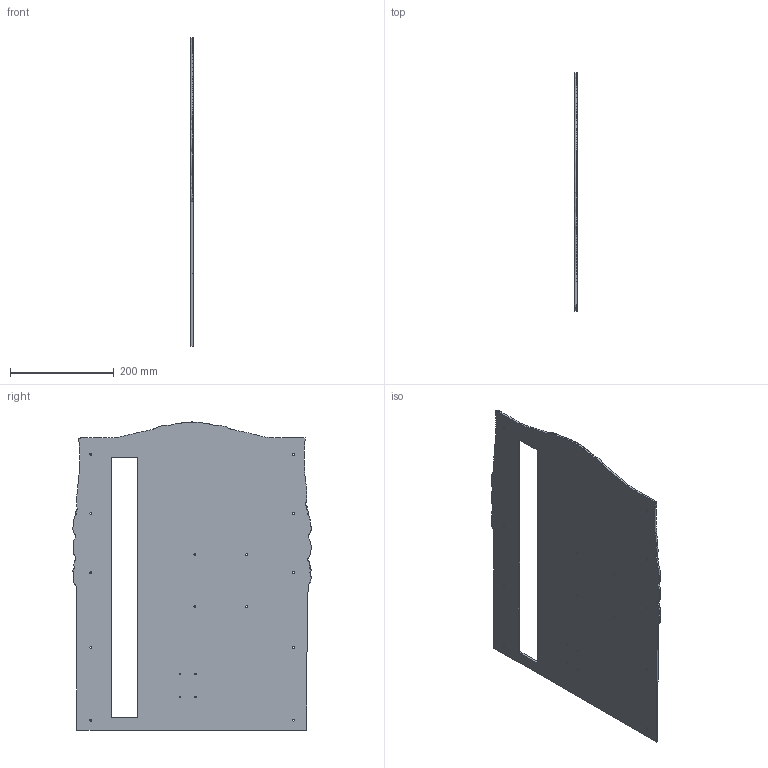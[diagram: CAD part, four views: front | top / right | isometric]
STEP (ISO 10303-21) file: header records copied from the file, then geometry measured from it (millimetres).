
FILE_DESCRIPTION(/* description */ (''),/* implementation_level */ '2;1');
FILE_NAME(/* name */ 'backplate.step',/* time_stamp */ '2026-06-27T03:52:42+02:00',/* author */ (''),/* organization */ (''),/* preprocessor_version */ 'ST-DEVELOPER v20.1',/* originating_system */ 'Autodesk Translation Framework v15.8.0.0',/* authorisation */ '');
FILE_SCHEMA (('AUTOMOTIVE_DESIGN { 1 0 10303 214 3 1 1 }'));
Length unit declared in the file: millimetre
Products named in the file (2): 2026-06-27-03-52-42-290; 2026-06-27-03-52-42-292
Assembly tree (1 placements, depth 2):
  2026-06-27-03-52-42-290
    2026-06-27-03-52-42-292
Bounding box: 4 x 458.67 x 593.6 mm (x, y, z)
Volume: 918690.5 mm3; surface area: 472761.1 mm2
Topology: 1 solids, 1 shells, 689 faces, 2061 edges, 1374 vertices
Faces by surface type: bspline 644, plane 27, cylinder 18
Full cylindrical faces by diameter (mm): 3 x4, 4 x14
Entity records: 24792 total; most frequent: CARTESIAN_POINT 12517, ORIENTED_EDGE 4122, EDGE_CURVE 2061, VERTEX_POINT 1374, DIRECTION 899, LINE 731, VECTOR 731, EDGE_LOOP 727
